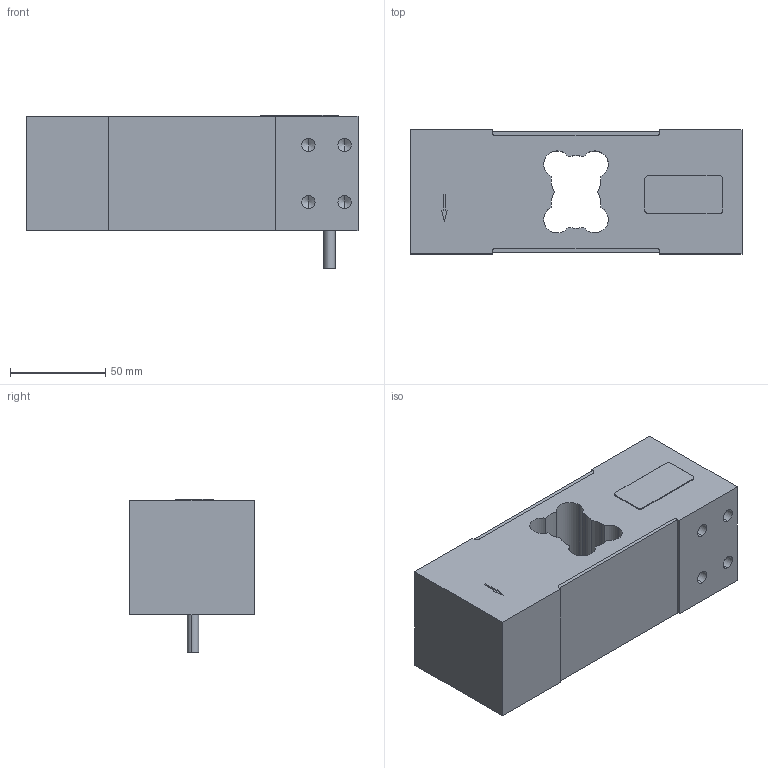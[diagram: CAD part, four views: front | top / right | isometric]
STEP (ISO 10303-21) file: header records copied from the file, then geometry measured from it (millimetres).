
FILE_DESCRIPTION (( 'STEP AP203' ), '1' );
FILE_NAME ('L6G assembly.STEP', '2014-02-12T16:17:09', ( 'Gebruiker' ), ( '' ), 'SwSTEP 2.0', 'SolidWorks 2011', '' );
FILE_SCHEMA (( 'CONFIG_CONTROL_DESIGN' ));
Length unit declared in the file: millimetre
Products named in the file (1): L6G assembly
Bounding box: 174 x 65 x 80.32 mm (x, y, z)
Volume: 585176.8 mm3; surface area: 90534.3 mm2
Topology: 5 solids, 5 shells, 113 faces, 283 edges, 173 vertices
Faces by surface type: cylinder 50, plane 43, cone 20
Entity records: 3326 total; most frequent: DIRECTION 595, CARTESIAN_POINT 552, ORIENTED_EDGE 530, EDGE_CURVE 265, AXIS2_PLACEMENT_3D 216, VERTEX_POINT 173, VECTOR 163, LINE 163
